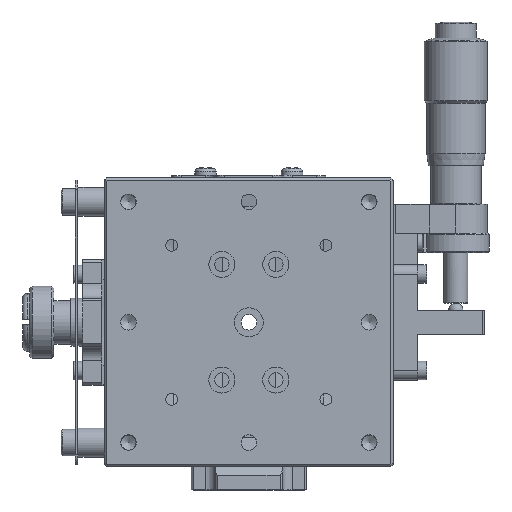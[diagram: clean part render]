
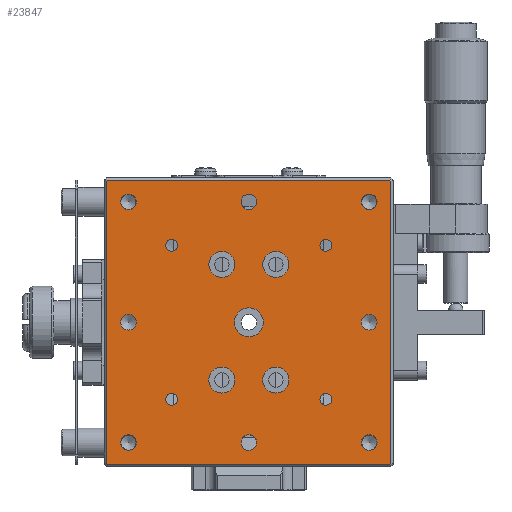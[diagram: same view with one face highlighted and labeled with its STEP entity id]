
A CAD part, top view. The second image highlights one B-rep face of the part: STEP entity #23847.
In plain terms, the highlighted planar face has unit normal (0, 0, 1).
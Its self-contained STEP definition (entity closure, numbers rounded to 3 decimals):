
#23276=CARTESIAN_POINT('',(-29.293,29.5,-105.0));
#23277=VERTEX_POINT('',#23276);
#23278=CARTESIAN_POINT('',(29.293,29.5,-105.0));
#23279=VERTEX_POINT('',#23278);
#23280=CARTESIAN_POINT('',(-29.293,29.5,-105.0));
#23281=DIRECTION('',(1.0,0.0,0.0));
#23282=VECTOR('',#23281,58.586);
#23283=LINE('',#23280,#23282);
#23284=EDGE_CURVE('',#23277,#23279,#23283,.T.);
#23316=CARTESIAN_POINT('',(29.5,29.293,-105.0));
#23317=VERTEX_POINT('',#23316);
#23318=CARTESIAN_POINT('',(29.293,29.5,-105.0));
#23319=DIRECTION('',(0.707,-0.707,0.0));
#23320=VECTOR('',#23319,0.293);
#23321=LINE('',#23318,#23320);
#23322=EDGE_CURVE('',#23279,#23317,#23321,.T.);
#23354=CARTESIAN_POINT('',(29.5,-29.293,-105.0));
#23355=VERTEX_POINT('',#23354);
#23356=CARTESIAN_POINT('',(29.5,29.293,-105.0));
#23357=DIRECTION('',(0.0,-1.0,0.0));
#23358=VECTOR('',#23357,58.586);
#23359=LINE('',#23356,#23358);
#23360=EDGE_CURVE('',#23317,#23355,#23359,.T.);
#23376=CARTESIAN_POINT('',(29.293,-29.5,-105.0));
#23377=VERTEX_POINT('',#23376);
#23378=CARTESIAN_POINT('',(29.5,-29.293,-105.0));
#23379=DIRECTION('',(-0.707,-0.707,0.0));
#23380=VECTOR('',#23379,0.293);
#23381=LINE('',#23378,#23380);
#23382=EDGE_CURVE('',#23355,#23377,#23381,.T.);
#23407=CARTESIAN_POINT('',(-29.293,-29.5,-105.0));
#23408=VERTEX_POINT('',#23407);
#23409=CARTESIAN_POINT('',(29.293,-29.5,-105.0));
#23410=DIRECTION('',(-1.0,0.0,0.0));
#23411=VECTOR('',#23410,58.586);
#23412=LINE('',#23409,#23411);
#23413=EDGE_CURVE('',#23377,#23408,#23412,.T.);
#23429=CARTESIAN_POINT('',(-29.5,-29.293,-105.0));
#23430=VERTEX_POINT('',#23429);
#23431=CARTESIAN_POINT('',(-29.293,-29.5,-105.0));
#23432=DIRECTION('',(-0.707,0.707,0.0));
#23433=VECTOR('',#23432,0.293);
#23434=LINE('',#23431,#23433);
#23435=EDGE_CURVE('',#23408,#23430,#23434,.T.);
#23457=CARTESIAN_POINT('',(-29.5,29.293,-105.0));
#23458=VERTEX_POINT('',#23457);
#23459=CARTESIAN_POINT('',(-29.5,-29.293,-105.0));
#23460=DIRECTION('',(0.0,1.0,0.0));
#23461=VECTOR('',#23460,58.586);
#23462=LINE('',#23459,#23461);
#23463=EDGE_CURVE('',#23430,#23458,#23462,.T.);
#23479=CARTESIAN_POINT('',(-29.5,29.293,-105.0));
#23480=DIRECTION('',(0.707,0.707,0.0));
#23481=VECTOR('',#23480,0.293);
#23482=LINE('',#23479,#23481);
#23483=EDGE_CURVE('',#23458,#23277,#23482,.T.);
#23645=CARTESIAN_POINT('',(0.0,30.0,-105.0));
#23646=DIRECTION('',(0.0,0.0,1.0));
#23647=DIRECTION('',(1.0,0.0,0.0));
#23648=AXIS2_PLACEMENT_3D('',#23645,#23646,#23647);
#23649=PLANE('',#23648);
#23650=ORIENTED_EDGE('',*,*,#23284,.F.);
#23651=ORIENTED_EDGE('',*,*,#23483,.F.);
#23652=ORIENTED_EDGE('',*,*,#23463,.F.);
#23653=ORIENTED_EDGE('',*,*,#23435,.F.);
#23654=ORIENTED_EDGE('',*,*,#23413,.F.);
#23655=ORIENTED_EDGE('',*,*,#23382,.F.);
#23656=ORIENTED_EDGE('',*,*,#23360,.F.);
#23657=ORIENTED_EDGE('',*,*,#23322,.F.);
#23658=EDGE_LOOP('',(#23650,#23651,#23652,#23653,#23654,#23655,#23656,#23657));
#23659=FACE_OUTER_BOUND('',#23658,.T.);
#23660=CARTESIAN_POINT('',(-16.,14.771,-105.0));
#23661=VERTEX_POINT('',#23660);
#23662=CARTESIAN_POINT('',(-16.,16.,-105.0));
#23663=DIRECTION('',(0.0,0.0,-1.0));
#23664=DIRECTION('',(0.0,-1.0,0.0));
#23665=AXIS2_PLACEMENT_3D('',#23662,#23663,#23664);
#23666=CIRCLE('',#23665,1.23);
#23667=EDGE_CURVE('',#23661,#23661,#23666,.T.);
#23668=ORIENTED_EDGE('',*,*,#23667,.T.);
#23669=EDGE_LOOP('',(#23668));
#23670=FACE_BOUND('',#23669,.T.);
#23671=CARTESIAN_POINT('',(14.771,16.,-105.0));
#23672=VERTEX_POINT('',#23671);
#23673=CARTESIAN_POINT('',(16.0,16.,-105.0));
#23674=DIRECTION('',(0.0,0.0,-1.0));
#23675=DIRECTION('',(-1.0,0.0,0.0));
#23676=AXIS2_PLACEMENT_3D('',#23673,#23674,#23675);
#23677=CIRCLE('',#23676,1.23);
#23678=EDGE_CURVE('',#23672,#23672,#23677,.T.);
#23679=ORIENTED_EDGE('',*,*,#23678,.T.);
#23680=EDGE_LOOP('',(#23679));
#23681=FACE_BOUND('',#23680,.T.);
#23682=CARTESIAN_POINT('',(16.,-14.771,-105.0));
#23683=VERTEX_POINT('',#23682);
#23684=CARTESIAN_POINT('',(16.,-16.0,-105.0));
#23685=DIRECTION('',(0.0,0.0,-1.0));
#23686=DIRECTION('',(0.0,1.0,0.0));
#23687=AXIS2_PLACEMENT_3D('',#23684,#23685,#23686);
#23688=CIRCLE('',#23687,1.23);
#23689=EDGE_CURVE('',#23683,#23683,#23688,.T.);
#23690=ORIENTED_EDGE('',*,*,#23689,.T.);
#23691=EDGE_LOOP('',(#23690));
#23692=FACE_BOUND('',#23691,.T.);
#23693=CARTESIAN_POINT('',(-14.771,-16.,-105.0));
#23694=VERTEX_POINT('',#23693);
#23695=CARTESIAN_POINT('',(-16.0,-16.,-105.0));
#23696=DIRECTION('',(0.0,0.0,-1.0));
#23697=DIRECTION('',(1.0,0.0,0.0));
#23698=AXIS2_PLACEMENT_3D('',#23695,#23696,#23697);
#23699=CIRCLE('',#23698,1.23);
#23700=EDGE_CURVE('',#23694,#23694,#23699,.T.);
#23701=ORIENTED_EDGE('',*,*,#23700,.T.);
#23702=EDGE_LOOP('',(#23701));
#23703=FACE_BOUND('',#23702,.T.);
#23704=CARTESIAN_POINT('',(2.9,-12.,-105.0));
#23705=VERTEX_POINT('',#23704);
#23706=CARTESIAN_POINT('',(5.6,-12.,-105.0));
#23707=DIRECTION('',(0.0,0.0,-1.0));
#23708=DIRECTION('',(-1.0,0.0,0.0));
#23709=AXIS2_PLACEMENT_3D('',#23706,#23707,#23708);
#23710=CIRCLE('',#23709,2.7);
#23711=EDGE_CURVE('',#23705,#23705,#23710,.T.);
#23712=ORIENTED_EDGE('',*,*,#23711,.T.);
#23713=EDGE_LOOP('',(#23712));
#23714=FACE_BOUND('',#23713,.T.);
#23715=CARTESIAN_POINT('',(-8.3,-12.,-105.0));
#23716=VERTEX_POINT('',#23715);
#23717=CARTESIAN_POINT('',(-5.6,-12.,-105.0));
#23718=DIRECTION('',(0.0,0.0,-1.0));
#23719=DIRECTION('',(-1.0,0.0,0.0));
#23720=AXIS2_PLACEMENT_3D('',#23717,#23718,#23719);
#23721=CIRCLE('',#23720,2.7);
#23722=EDGE_CURVE('',#23716,#23716,#23721,.T.);
#23723=ORIENTED_EDGE('',*,*,#23722,.T.);
#23724=EDGE_LOOP('',(#23723));
#23725=FACE_BOUND('',#23724,.T.);
#23726=CARTESIAN_POINT('',(-2.9,12.,-105.0));
#23727=VERTEX_POINT('',#23726);
#23728=CARTESIAN_POINT('',(-5.6,12.,-105.0));
#23729=DIRECTION('',(0.0,0.0,-1.0));
#23730=DIRECTION('',(1.0,0.0,0.0));
#23731=AXIS2_PLACEMENT_3D('',#23728,#23729,#23730);
#23732=CIRCLE('',#23731,2.7);
#23733=EDGE_CURVE('',#23727,#23727,#23732,.T.);
#23734=ORIENTED_EDGE('',*,*,#23733,.T.);
#23735=EDGE_LOOP('',(#23734));
#23736=FACE_BOUND('',#23735,.T.);
#23737=CARTESIAN_POINT('',(8.3,12.,-105.0));
#23738=VERTEX_POINT('',#23737);
#23739=CARTESIAN_POINT('',(5.6,12.,-105.0));
#23740=DIRECTION('',(0.0,0.0,-1.0));
#23741=DIRECTION('',(1.0,0.0,0.0));
#23742=AXIS2_PLACEMENT_3D('',#23739,#23740,#23741);
#23743=CIRCLE('',#23742,2.7);
#23744=EDGE_CURVE('',#23738,#23738,#23743,.T.);
#23745=ORIENTED_EDGE('',*,*,#23744,.T.);
#23746=EDGE_LOOP('',(#23745));
#23747=FACE_BOUND('',#23746,.T.);
#23748=CARTESIAN_POINT('',(25.,-26.621,-105.0));
#23749=VERTEX_POINT('',#23748);
#23750=CARTESIAN_POINT('',(25.,-25.,-105.0));
#23751=DIRECTION('',(0.0,0.0,-1.0));
#23752=DIRECTION('',(0.0,-1.0,0.0));
#23753=AXIS2_PLACEMENT_3D('',#23750,#23751,#23752);
#23754=CIRCLE('',#23753,1.621);
#23755=EDGE_CURVE('',#23749,#23749,#23754,.T.);
#23756=ORIENTED_EDGE('',*,*,#23755,.T.);
#23757=EDGE_LOOP('',(#23756));
#23758=FACE_BOUND('',#23757,.T.);
#23759=CARTESIAN_POINT('',(-26.621,-25.0,-105.0));
#23760=VERTEX_POINT('',#23759);
#23761=CARTESIAN_POINT('',(-25.0,-25.0,-105.0));
#23762=DIRECTION('',(0.0,0.0,-1.0));
#23763=DIRECTION('',(-1.0,0.0,0.0));
#23764=AXIS2_PLACEMENT_3D('',#23761,#23762,#23763);
#23765=CIRCLE('',#23764,1.621);
#23766=EDGE_CURVE('',#23760,#23760,#23765,.T.);
#23767=ORIENTED_EDGE('',*,*,#23766,.T.);
#23768=EDGE_LOOP('',(#23767));
#23769=FACE_BOUND('',#23768,.T.);
#23770=CARTESIAN_POINT('',(-25.0,26.621,-105.0));
#23771=VERTEX_POINT('',#23770);
#23772=CARTESIAN_POINT('',(-25.0,25.0,-105.0));
#23773=DIRECTION('',(0.0,0.0,-1.0));
#23774=DIRECTION('',(0.0,1.0,0.0));
#23775=AXIS2_PLACEMENT_3D('',#23772,#23773,#23774);
#23776=CIRCLE('',#23775,1.621);
#23777=EDGE_CURVE('',#23771,#23771,#23776,.T.);
#23778=ORIENTED_EDGE('',*,*,#23777,.T.);
#23779=EDGE_LOOP('',(#23778));
#23780=FACE_BOUND('',#23779,.T.);
#23781=CARTESIAN_POINT('',(26.621,25.0,-105.0));
#23782=VERTEX_POINT('',#23781);
#23783=CARTESIAN_POINT('',(25.0,25.0,-105.0));
#23784=DIRECTION('',(0.0,0.0,-1.0));
#23785=DIRECTION('',(1.0,0.0,0.0));
#23786=AXIS2_PLACEMENT_3D('',#23783,#23784,#23785);
#23787=CIRCLE('',#23786,1.621);
#23788=EDGE_CURVE('',#23782,#23782,#23787,.T.);
#23789=ORIENTED_EDGE('',*,*,#23788,.T.);
#23790=EDGE_LOOP('',(#23789));
#23791=FACE_BOUND('',#23790,.T.);
#23792=CARTESIAN_POINT('',(26.621,0.0,-105.0));
#23793=VERTEX_POINT('',#23792);
#23794=CARTESIAN_POINT('',(25.0,0.0,-105.0));
#23795=DIRECTION('',(0.0,0.0,-1.0));
#23796=DIRECTION('',(1.0,0.0,0.0));
#23797=AXIS2_PLACEMENT_3D('',#23794,#23795,#23796);
#23798=CIRCLE('',#23797,1.621);
#23799=EDGE_CURVE('',#23793,#23793,#23798,.T.);
#23800=ORIENTED_EDGE('',*,*,#23799,.T.);
#23801=EDGE_LOOP('',(#23800));
#23802=FACE_BOUND('',#23801,.T.);
#23803=CARTESIAN_POINT('',(-23.379,0.0,-105.0));
#23804=VERTEX_POINT('',#23803);
#23805=CARTESIAN_POINT('',(-25.0,0.0,-105.0));
#23806=DIRECTION('',(0.0,0.0,-1.0));
#23807=DIRECTION('',(1.0,0.0,0.0));
#23808=AXIS2_PLACEMENT_3D('',#23805,#23806,#23807);
#23809=CIRCLE('',#23808,1.621);
#23810=EDGE_CURVE('',#23804,#23804,#23809,.T.);
#23811=ORIENTED_EDGE('',*,*,#23810,.T.);
#23812=EDGE_LOOP('',(#23811));
#23813=FACE_BOUND('',#23812,.T.);
#23814=CARTESIAN_POINT('',(1.621,25.0,-105.0));
#23815=VERTEX_POINT('',#23814);
#23816=CARTESIAN_POINT('',(0.0,25.0,-105.0));
#23817=DIRECTION('',(0.0,0.0,-1.0));
#23818=DIRECTION('',(1.0,0.0,0.0));
#23819=AXIS2_PLACEMENT_3D('',#23816,#23817,#23818);
#23820=CIRCLE('',#23819,1.621);
#23821=EDGE_CURVE('',#23815,#23815,#23820,.T.);
#23822=ORIENTED_EDGE('',*,*,#23821,.T.);
#23823=EDGE_LOOP('',(#23822));
#23824=FACE_BOUND('',#23823,.T.);
#23825=CARTESIAN_POINT('',(1.621,-25.0,-105.0));
#23826=VERTEX_POINT('',#23825);
#23827=CARTESIAN_POINT('',(0.0,-25.0,-105.0));
#23828=DIRECTION('',(0.0,0.0,-1.0));
#23829=DIRECTION('',(1.0,0.0,0.0));
#23830=AXIS2_PLACEMENT_3D('',#23827,#23828,#23829);
#23831=CIRCLE('',#23830,1.621);
#23832=EDGE_CURVE('',#23826,#23826,#23831,.T.);
#23833=ORIENTED_EDGE('',*,*,#23832,.T.);
#23834=EDGE_LOOP('',(#23833));
#23835=FACE_BOUND('',#23834,.T.);
#23836=CARTESIAN_POINT('',(3.,0.0,-105.0));
#23837=VERTEX_POINT('',#23836);
#23838=CARTESIAN_POINT('',(0.0,0.0,-105.0));
#23839=DIRECTION('',(0.0,0.0,-1.0));
#23840=DIRECTION('',(1.0,0.0,0.0));
#23841=AXIS2_PLACEMENT_3D('',#23838,#23839,#23840);
#23842=CIRCLE('',#23841,3.);
#23843=EDGE_CURVE('',#23837,#23837,#23842,.T.);
#23844=ORIENTED_EDGE('',*,*,#23843,.T.);
#23845=EDGE_LOOP('',(#23844));
#23846=FACE_BOUND('',#23845,.T.);
#23847=ADVANCED_FACE('',(#23659,#23670,#23681,#23692,#23703,#23714,#23725,#23736,#23747,#23758,#23769,#23780,#23791,#23802,#23813,#23824,#23835,#23846),#23649,.T.);
